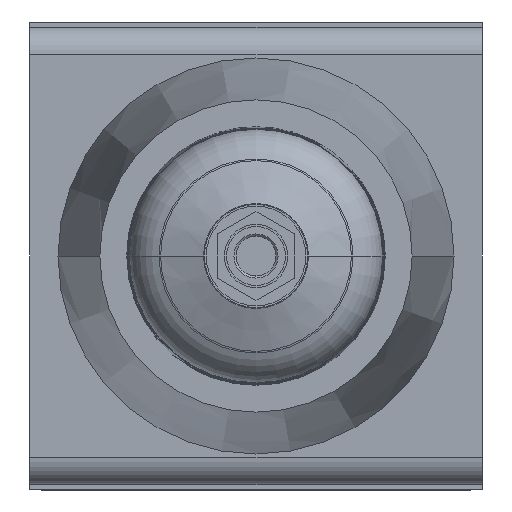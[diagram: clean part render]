
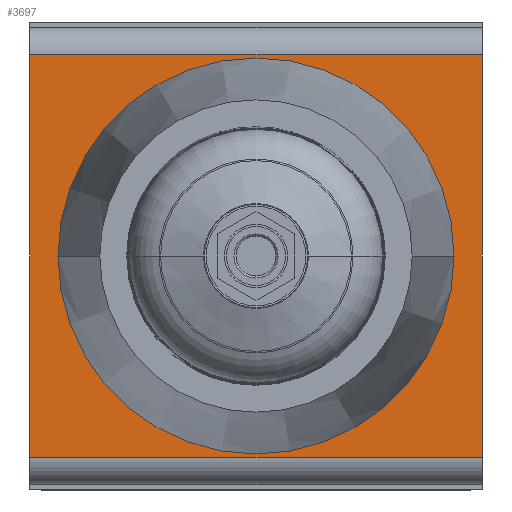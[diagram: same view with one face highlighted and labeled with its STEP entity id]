
A CAD part, front view. The second image highlights one B-rep face of the part: STEP entity #3697.
In plain terms, the highlighted planar face has unit normal (0, -1, 0).
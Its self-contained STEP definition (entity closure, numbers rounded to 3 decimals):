
#189=DIRECTION('',(0.,0.,-1.));
#190=VECTOR('',#189,89.);
#191=CARTESIAN_POINT('',(50.,-50.75,44.5));
#192=LINE('',#191,#190);
#303=DIRECTION('',(0.,0.,-1.));
#304=VECTOR('',#303,89.);
#305=CARTESIAN_POINT('',(-50.,-50.75,44.5));
#306=LINE('',#305,#304);
#1299=DIRECTION('',(1.,0.,0.));
#1300=VECTOR('',#1299,100.);
#1301=CARTESIAN_POINT('',(-50.,-50.75,-44.5));
#1302=LINE('',#1301,#1300);
#1303=DIRECTION('',(1.,0.,0.));
#1304=VECTOR('',#1303,100.);
#1305=CARTESIAN_POINT('',(-50.,-50.75,44.5));
#1306=LINE('',#1305,#1304);
#1307=CARTESIAN_POINT('',(0.,-50.75,0.));
#1308=DIRECTION('',(0.,-1.,0.));
#1309=DIRECTION('',(-1.,0.,0.));
#1310=AXIS2_PLACEMENT_3D('',#1307,#1308,#1309);
#1312=CARTESIAN_POINT('',(0.,-50.75,0.));
#1313=DIRECTION('',(0.,-1.,0.));
#1314=DIRECTION('',(1.,0.,0.));
#1315=AXIS2_PLACEMENT_3D('',#1312,#1313,#1314);
#1556=CARTESIAN_POINT('',(-50.,-50.75,44.5));
#1557=VERTEX_POINT('',#1556);
#1558=CARTESIAN_POINT('',(-50.,-50.75,-44.5));
#1559=VERTEX_POINT('',#1558);
#1588=CARTESIAN_POINT('',(50.,-50.75,44.5));
#1589=VERTEX_POINT('',#1588);
#1590=CARTESIAN_POINT('',(50.,-50.75,-44.5));
#1591=VERTEX_POINT('',#1590);
#1750=CARTESIAN_POINT('',(-43.75,-50.75,0.));
#1751=CARTESIAN_POINT('',(43.75,-50.75,0.));
#1752=VERTEX_POINT('',#1750);
#1753=VERTEX_POINT('',#1751);
#3679=CARTESIAN_POINT('',(-50.,-50.75,44.5));
#3680=DIRECTION('',(0.,-1.,0.));
#3681=DIRECTION('',(0.,0.,-1.));
#3682=AXIS2_PLACEMENT_3D('',#3679,#3680,#3681);
#3683=PLANE('',#3682);
#3684=ORIENTED_EDGE('',*,*,#2244,.F.);
#3686=ORIENTED_EDGE('',*,*,#3685,.T.);
#3687=ORIENTED_EDGE('',*,*,#2097,.T.);
#3688=ORIENTED_EDGE('',*,*,#3672,.F.);
#3689=EDGE_LOOP('',(#3684,#3686,#3687,#3688));
#3690=FACE_OUTER_BOUND('',#3689,.F.);
#3692=ORIENTED_EDGE('',*,*,#3691,.T.);
#3694=ORIENTED_EDGE('',*,*,#3693,.T.);
#3695=EDGE_LOOP('',(#3692,#3694));
#3696=FACE_BOUND('',#3695,.F.);
#3697=ADVANCED_FACE('',(#3690,#3696),#3683,.T.);
#1311=CIRCLE('',#1310,43.75);
#1316=CIRCLE('',#1315,43.75);
#2097=EDGE_CURVE('',#1589,#1591,#192,.T.);
#2244=EDGE_CURVE('',#1557,#1559,#306,.T.);
#3672=EDGE_CURVE('',#1559,#1591,#1302,.T.);
#3685=EDGE_CURVE('',#1557,#1589,#1306,.T.);
#3691=EDGE_CURVE('',#1752,#1753,#1311,.T.);
#3693=EDGE_CURVE('',#1753,#1752,#1316,.T.);
